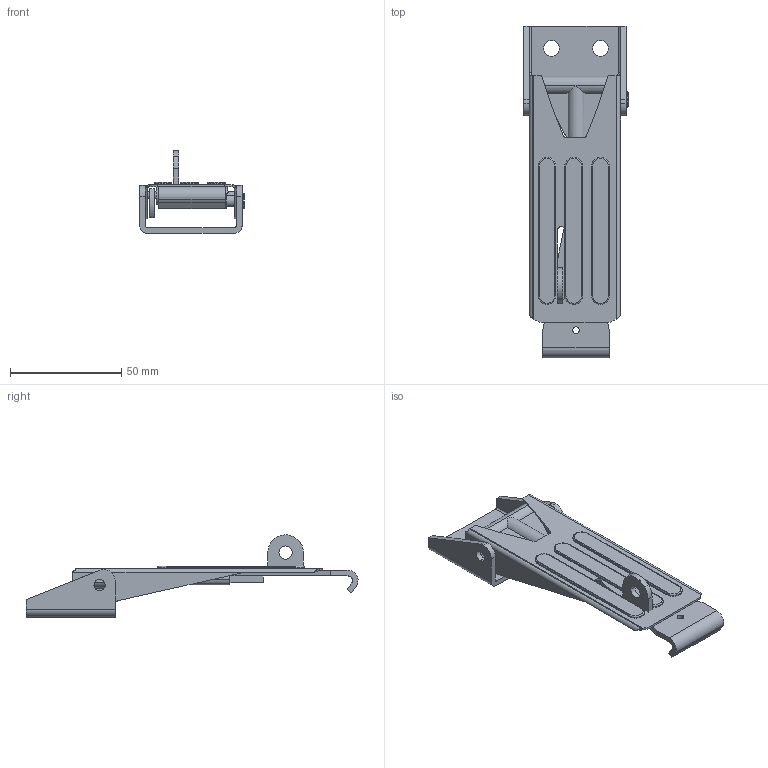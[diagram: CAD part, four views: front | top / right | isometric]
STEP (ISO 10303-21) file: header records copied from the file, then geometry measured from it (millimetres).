
FILE_DESCRIPTION((''),'2;1');
FILE_NAME('1030.stp','2014-07-01T16:05:10',(''),(''),'Mechanical Desktop 2006','Mechanical Desktop 2006',', , ');
FILE_SCHEMA(('CONFIG_CONTROL_DESIGN'));
Length unit declared in the file: millimetre
Products named in the file (7): 1030; ~~~~~~~TEIL1; ~~TEIL1; ~~~TEIL1; ~~~~~~~~~~~~TEIL1; ~TEIL1; ~~~~~TEIL1
Assembly tree (6 placements, depth 2):
  1030
    ~~~~~~~TEIL1
    ~~TEIL1
    ~~~TEIL1
    ~~~~~~~~~~~~TEIL1
    ~TEIL1
    ~~~~~TEIL1
Bounding box: 47 x 149.11 x 36.98 mm (x, y, z)
Volume: 21167.9 mm3; surface area: 25570 mm2
Topology: 6 solids, 6 shells, 233 faces, 607 edges, 381 vertices
Faces by surface type: cylinder 115, plane 106, torus 8, bspline 4
Entity records: 7559 total; most frequent: CARTESIAN_POINT 1437, DIRECTION 1305, ORIENTED_EDGE 1214, EDGE_CURVE 607, AXIS2_PLACEMENT_3D 484, VERTEX_POINT 381, VECTOR 337, LINE 337
